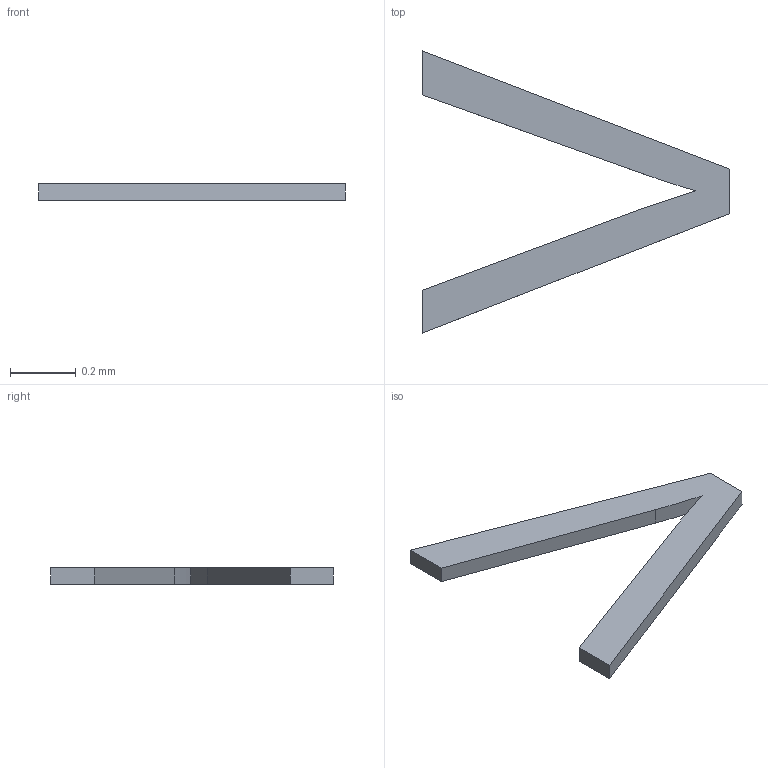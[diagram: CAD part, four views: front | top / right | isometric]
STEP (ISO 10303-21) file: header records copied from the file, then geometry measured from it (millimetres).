
FILE_DESCRIPTION(/* description */ ('STEP AP242 Edition 2','CAx-IF Rec.Pracs.---Representation and Presentation of Product Manufacturing Information (PMI)---4.0---2014-10-13','CAx-IF Rec.Pracs.---3D Tessellated Geometry---0.4---2014-09-14','2;1','CAx-IF Rec.Pracs.---User Defined Attributes---1.5---2016-08-15'),/* implementation_level */ '2;1');
FILE_NAME(/* name */ 'Drone Layout - Surface 326',/* time_stamp */ '2026-10-04T22:22:56Z',/* author */ (''),/* organization */ (''),/* preprocessor_version */ 'ST-DEVELOPER v20',/* originating_system */ 'ONSHAPE BY PTC INC, 1.221',/* authorisation */ ' ');
FILE_SCHEMA (('AP242_MANAGED_MODEL_BASED_3D_ENGINEERING_MIM_LF { 1 0 10303 442 3 1 4 }'));
Length unit declared in the file: metre
Products named in the file (1): Text_VCC
Bounding box: 0.93 x 0.86 x 0.05 mm (x, y, z)
Volume: 0 mm3; surface area: 0.7 mm2
Topology: 1 solids, 1 shells, 11 faces, 27 edges, 18 vertices
Faces by surface type: plane 9, cylinder 2
Entity records: 340 total; most frequent: CARTESIAN_POINT 69, ORIENTED_EDGE 54, DIRECTION 49, EDGE_CURVE 27, LINE 21, VECTOR 21, VERTEX_POINT 18, AXIS2_PLACEMENT_3D 14
